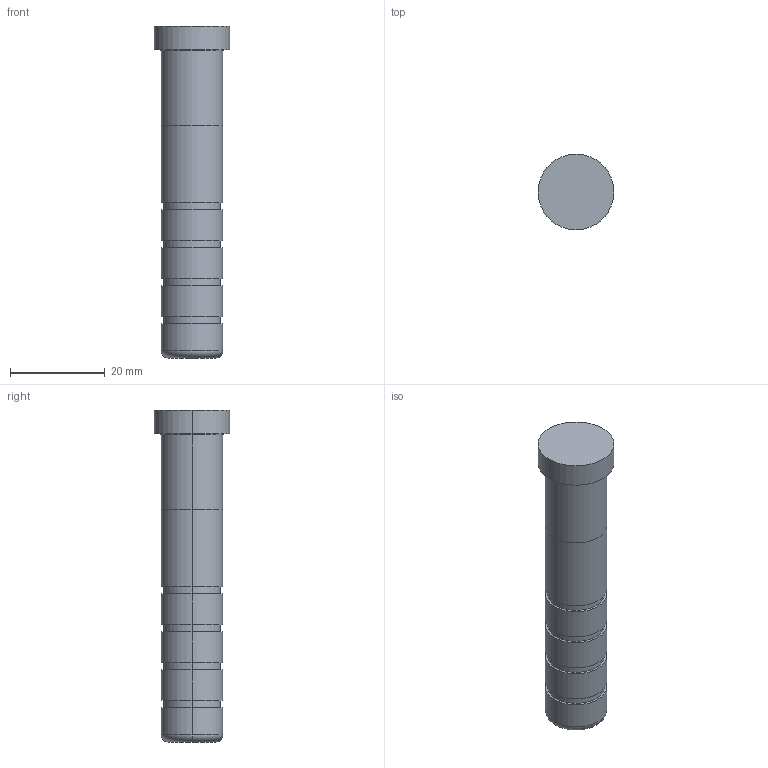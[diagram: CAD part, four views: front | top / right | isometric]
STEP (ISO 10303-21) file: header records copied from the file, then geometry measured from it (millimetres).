
FILE_DESCRIPTION(/* description */ (''),/* implementation_level */ '2;1');
FILE_NAME(/* name */ '3d_sgoh13-70_05226_r00.stp',/* time_stamp */ '2011-01-10T14:11:10+09:00',/* author */ ('MISUMI'),/* organization */ (''),/* preprocessor_version */ 'ST-DEVELOPER v11',/* originating_system */ 'UGS - NX 5.0',/* authorisation */ '');
FILE_SCHEMA (('CONFIG_CONTROL_DESIGN'));
Length unit declared in the file: millimetre
Products named in the file (1): 3d_sgoh13-70_05226_r00
Bounding box: 16 x 16 x 70 mm (x, y, z)
Volume: 9496.9 mm3; surface area: 3414.7 mm2
Topology: 1 solids, 1 shells, 37 faces, 72 edges, 46 vertices
Faces by surface type: cylinder 22, plane 11, torus 4
Entity records: 1054 total; most frequent: DIRECTION 198, CARTESIAN_POINT 156, ORIENTED_EDGE 144, AXIS2_PLACEMENT_3D 88, EDGE_CURVE 72, CIRCLE 50, EDGE_LOOP 46, VERTEX_POINT 46
